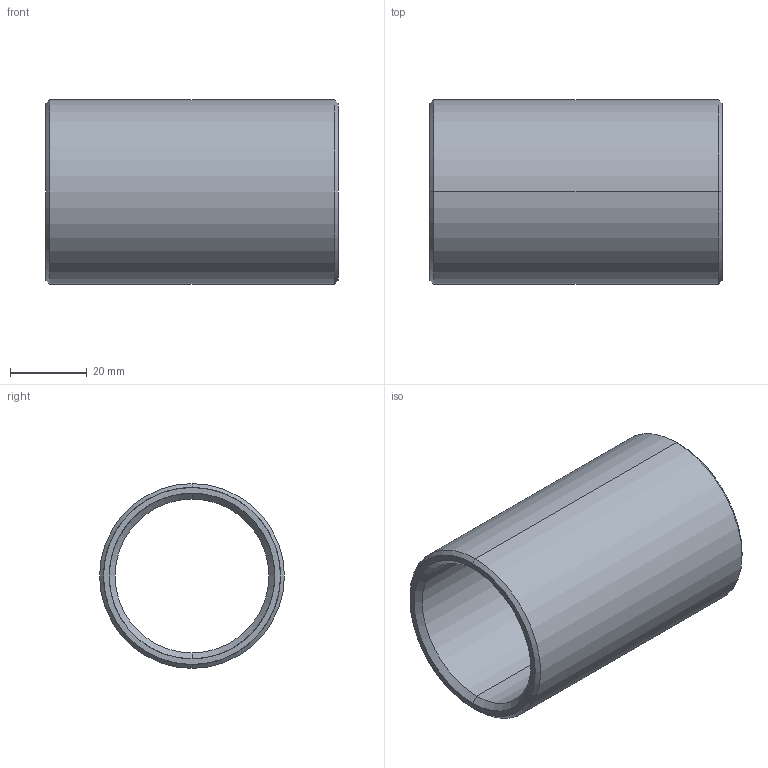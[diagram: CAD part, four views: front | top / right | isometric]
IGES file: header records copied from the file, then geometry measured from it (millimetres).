
Start section: START RECORD GO HERE.
Global section: file name: 352-40X76.igs; native system: DASSAULT SYSTEMES CATIA V5 R20 - www.3ds.com; preprocessor: CATIA Version 5 Release 20 ; author: Utente; organization: NB04-ASUS; date: 20210414.165300; units: millimetre
Bounding box: 76 x 48 x 48 mm (x, y, z)
Surface area: 21776.6 mm2 (no closed solid volume)
Topology: 0 solids, 0 shells, 14 faces, 88 edges, 88 vertices
Faces by surface type: revolution 12, plane 2
